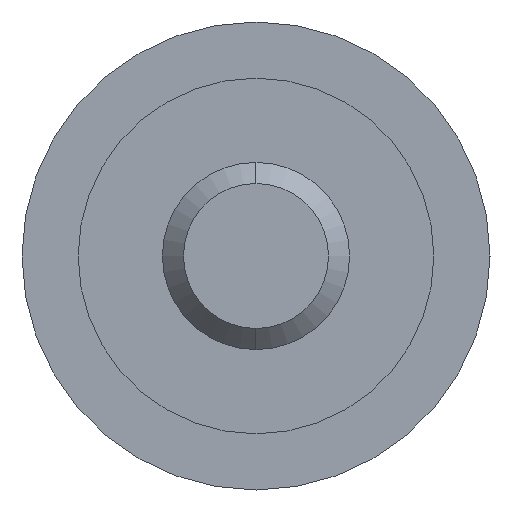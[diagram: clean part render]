
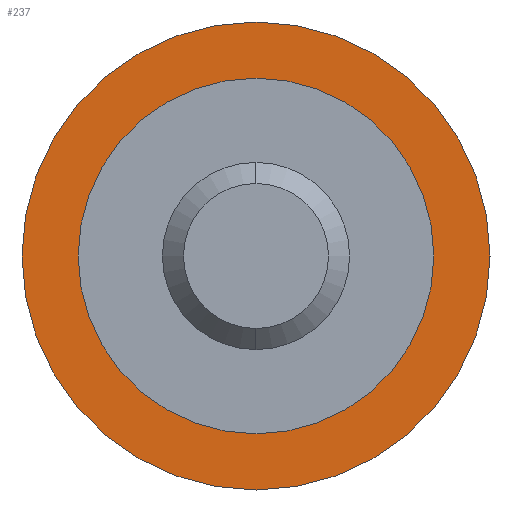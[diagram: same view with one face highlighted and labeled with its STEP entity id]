
A CAD part, left-side view. The second image highlights one B-rep face of the part: STEP entity #237.
In plain terms, the highlighted planar face has unit normal (-1, 0, 0).
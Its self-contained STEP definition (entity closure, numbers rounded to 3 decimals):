
#6 = DIRECTION ( 'NONE',  ( 0., 0., 1. ) ) ;
#47 = FACE_OUTER_BOUND ( 'NONE', #665, .T. ) ;
#50 = EDGE_CURVE ( 'NONE', #571, #642, #229, .T. ) ;
#55 = AXIS2_PLACEMENT_3D ( 'NONE', #474, #266, #63 ) ;
#57 = DIRECTION ( 'NONE',  ( -1., 0., 0. ) ) ;
#63 = DIRECTION ( 'NONE',  ( 0., 0., 1. ) ) ;
#75 = CIRCLE ( 'NONE', #233, 3.8 ) ;
#93 = ORIENTED_EDGE ( 'NONE', *, *, #255, .T. ) ;
#109 = AXIS2_PLACEMENT_3D ( 'NONE', #483, #520, #480 ) ;
#116 = CARTESIAN_POINT ( 'NONE',  ( -7.5, 0., 0. ) ) ;
#153 = DIRECTION ( 'NONE',  ( -1., 0., 0. ) ) ;
#160 = VERTEX_POINT ( 'NONE', #182 ) ;
#182 = CARTESIAN_POINT ( 'NONE',  ( -7.5, 0., -5. ) ) ;
#199 = DIRECTION ( 'NONE',  ( 0., 0., -1. ) ) ;
#221 = EDGE_LOOP ( 'NONE', ( #259, #347 ) ) ;
#229 = CIRCLE ( 'NONE', #109, 3.8 ) ;
#233 = AXIS2_PLACEMENT_3D ( 'NONE', #671, #153, #559 ) ;
#237 = ADVANCED_FACE ( 'NONE', ( #514, #47 ), #258, .F. ) ;
#255 = EDGE_CURVE ( 'NONE', #160, #614, #385, .T. ) ;
#258 = PLANE ( 'NONE',  #465 ) ;
#259 = ORIENTED_EDGE ( 'NONE', *, *, #50, .F. ) ;
#261 = AXIS2_PLACEMENT_3D ( 'NONE', #116, #57, #6 ) ;
#266 = DIRECTION ( 'NONE',  ( -1., 0., 0. ) ) ;
#309 = EDGE_CURVE ( 'NONE', #614, #160, #639, .T. ) ;
#347 = ORIENTED_EDGE ( 'NONE', *, *, #647, .F. ) ;
#354 = ORIENTED_EDGE ( 'NONE', *, *, #309, .T. ) ;
#384 = CARTESIAN_POINT ( 'NONE',  ( -7.5, 0., 3.8 ) ) ;
#385 = CIRCLE ( 'NONE', #261, 5. ) ;
#450 = CARTESIAN_POINT ( 'NONE',  ( -7.5, 3.8, 0. ) ) ;
#465 = AXIS2_PLACEMENT_3D ( 'NONE', #450, #664, #199 ) ;
#474 = CARTESIAN_POINT ( 'NONE',  ( -7.5, 0., 0. ) ) ;
#480 = DIRECTION ( 'NONE',  ( 0., 0., 1. ) ) ;
#483 = CARTESIAN_POINT ( 'NONE',  ( -7.5, 0., 0. ) ) ;
#514 = FACE_BOUND ( 'NONE', #221, .T. ) ;
#520 = DIRECTION ( 'NONE',  ( -1., 0., 0. ) ) ;
#559 = DIRECTION ( 'NONE',  ( 0., 0., 1. ) ) ;
#566 = CARTESIAN_POINT ( 'NONE',  ( -7.5, 0., 5. ) ) ;
#569 = CARTESIAN_POINT ( 'NONE',  ( -7.5, 0., -3.8 ) ) ;
#571 = VERTEX_POINT ( 'NONE', #384 ) ;
#614 = VERTEX_POINT ( 'NONE', #566 ) ;
#639 = CIRCLE ( 'NONE', #55, 5. ) ;
#642 = VERTEX_POINT ( 'NONE', #569 ) ;
#647 = EDGE_CURVE ( 'NONE', #642, #571, #75, .T. ) ;
#664 = DIRECTION ( 'NONE',  ( 1., 0., 0. ) ) ;
#665 = EDGE_LOOP ( 'NONE', ( #354, #93 ) ) ;
#671 = CARTESIAN_POINT ( 'NONE',  ( -7.5, 0., 0. ) ) ;
